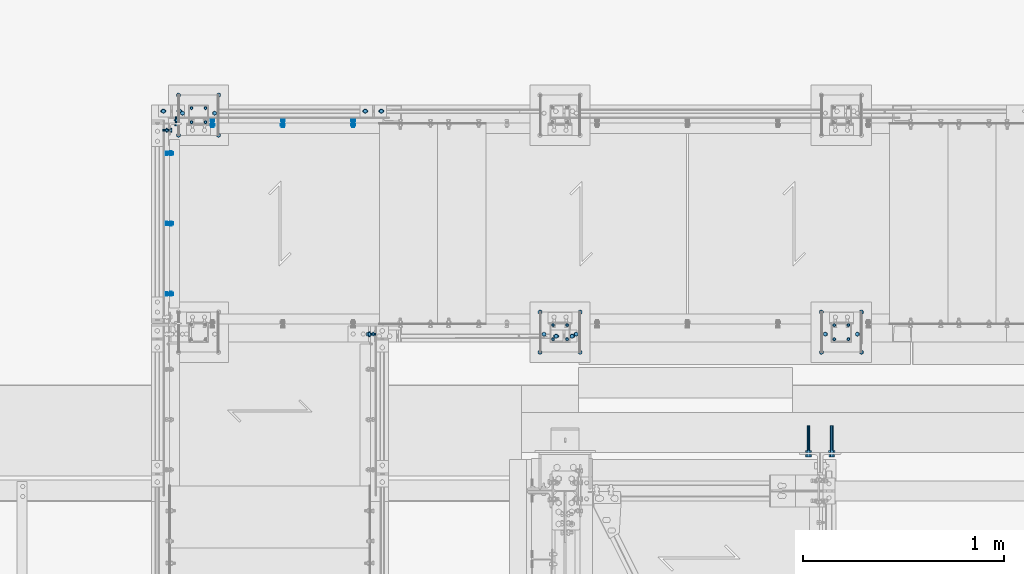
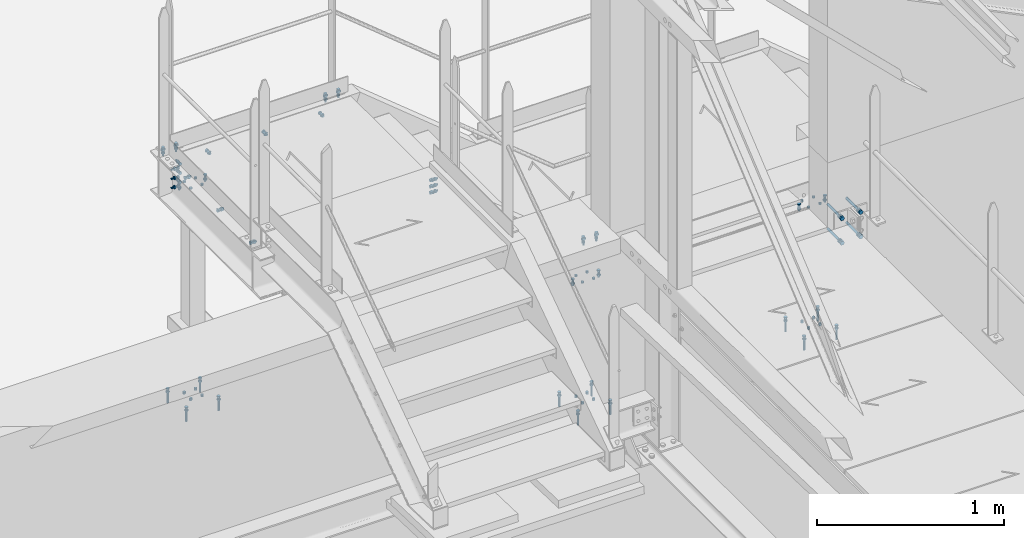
# One storey, part 199 of 362: 22 mechanical fasteners.
"""IFC2X3 building model written with IfcOpenShell, lengths in millimetres."""

from ifc_helpers import new_model, si_unit, frame, frame_2d, origin_with_axes, origin_2d_with_axis, place, context, subcontext, project, spatial, polyline, circle_curve, parameter, trimmed, segment, composite_curve, circle, outline, extrude, source, transform, mapped, material, type_object, element, save


model = new_model("IFC2X3")

# Units and contexts
model_context = context("Model", 3, precision=1e-05, world=origin_with_axes())
body_context = subcontext(model_context, "Body", "Model", "MODEL_VIEW")
ifc_project = project(units=[si_unit("LENGTHUNIT", "METRE", prefix="MILLI"), si_unit("AREAUNIT", "SQUARE_METRE"), si_unit("VOLUMEUNIT", "CUBIC_METRE"), si_unit("MASSUNIT", "GRAM", prefix="KILO"), si_unit("TIMEUNIT", "SECOND"), si_unit("PLANEANGLEUNIT", "RADIAN"), si_unit("SOLIDANGLEUNIT", "STERADIAN"), si_unit("THERMODYNAMICTEMPERATUREUNIT", "DEGREE_CELSIUS"), si_unit("LUMINOUSINTENSITYUNIT", "LUMEN")], contexts=[model_context])

# Site, building, storey
site_placement = place(None, origin_with_axes())
site = spatial("IfcSite", under=ifc_project, at=site_placement, Name="Undefined", CompositionType="ELEMENT")
building_placement = place(site_placement, origin_with_axes())
building = spatial("IfcBuilding", under=site, at=building_placement, Name="Undefined", CompositionType="ELEMENT")
storey_placement = place(building_placement, origin_with_axes())
storey = spatial("IfcBuildingStorey", under=building, at=storey_placement, Name="Undefined", CompositionType="ELEMENT", Elevation=0.0)

# Mechanical fasteners
ifc_material_1 = material(Name="6.8")
mechanical_fastener_type = type_object("IfcMechanicalFastenerType", Name="Bolt assembly")
shared_shape_1 = source(origin_with_axes(), body_context, "Body", "SweptSolid", [
    extrude(circle(Radius=7.0, at=origin_2d_with_axis()), frame((0.0, -12.0, 0.0), z_axis=(0.0, 1.0, 0.0), x_axis=(1.0, 0.0, 0.0)), (0.0, 0.0, 1.0), 12.1),
])
for number, where, z_axis, x_axis, name in (
    (1, (34255.0000000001, 16024.9999136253, 7050.0), (1.0, 0.0, 0.0), (0.0, -1.0, 0.0), "Bolt assembly"),
    (2, (35655.0000000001, 16024.9999136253, 7050.0), (1.0, 0.0, 0.0), (0.0, -1.0, 0.0), "Bolt assembly"),
):
    element("IfcMechanicalFastener", number, at=place(storey_placement, frame(where, z_axis=z_axis, x_axis=x_axis)), inside=storey, type_object=mechanical_fastener_type, material=ifc_material_1, Name=name, NominalDiameter=12.0, NominalLength=12.0, context=body_context, shape_type="MappedRepresentation", body=[
        mapped(shared_shape_1, transform((0.0, 0.0, 35.0))),
        mapped(shared_shape_1, transform((70.0, 0.0, 35.0))),
        mapped(shared_shape_1, transform((0.0, 0.0, -35.0))),
        mapped(shared_shape_1, transform((70.0, 0.0, -35.0))),
    ])
mechanical_fastener_1_placement = place(storey_placement, frame((32455.0000000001, 17034.9996684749, 7050.0), z_axis=(-1.0, 0.0, 0.0), x_axis=(0.0, 1.0, 0.0)))
element("IfcMechanicalFastener", 3, at=mechanical_fastener_1_placement, inside=storey, type_object=mechanical_fastener_type, material=ifc_material_1, Name="Bolt assembly", NominalDiameter=12.0, NominalLength=12.0, context=body_context, shape_type="MappedRepresentation", body=[
    mapped(shared_shape_1, transform((0.0, 0.0, -35.0))),
    mapped(shared_shape_1, transform((70.0, 0.0, -35.0))),
    mapped(shared_shape_1, transform((0.0, 0.0, 35.0))),
    mapped(shared_shape_1, transform((70.0, 0.0, 35.0))),
])
ifc_material_2 = material(Name="HILTI-HSA-R")
shared_shape_2 = source(origin_with_axes(), body_context, "Body", "SweptSolid", [
    extrude(circle(Radius=7.0, at=origin_2d_with_axis()), frame((0.0, -12.0, 0.0), z_axis=(0.0, 1.0, 0.0), x_axis=(1.0, 0.0, 0.0)), (0.0, 0.0, 1.0), 12.1),
    extrude(outline(polyline([(10.39230484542, 0.0), (5.19615242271, 9.00000000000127), (-5.19615242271, 9.00000000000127), (-10.39230484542, 0.0), (-5.19615242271, -9.00000000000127), (5.19615242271, -9.00000000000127), (10.39230484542, 0.0)])), frame((0.0, -19.92, 0.0), z_axis=(0.0, 1.0, 0.0), x_axis=(1.0, 0.0, 0.0)), (0.0, 0.0, 1.0), 7.92),
    extrude(circle(Radius=6.0, at=origin_2d_with_axis()), frame((0.0, -12.0, 0.0), z_axis=(0.0, 1.0, 0.0), x_axis=(1.0, 0.0, 0.0)), (0.0, 0.0, 1.0), 89.2),
    extrude(outline(polyline([(11.5008173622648, 0.0), (5.7504086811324, 9.96000000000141), (-5.7504086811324, 9.96000000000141), (-11.5008173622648, 0.0), (-5.7504086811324, -9.96000000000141), (5.7504086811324, -9.96000000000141), (11.5008173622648, 0.0)])), frame((0.0, 0.0, 0.0), z_axis=(0.0, 1.0, 0.0), x_axis=(1.0, 0.0, 0.0)), (0.0, 0.0, 1.0), 7.92),
])
for number, where, z_axis, x_axis, name in (
    (4, (34255.0000000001, 16089.9999136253, 7050.0), (1.0, 0.0, 0.0), (0.0, -1.0, 0.0), "Bolt assembly"),
    (5, (35655.0000000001, 16089.9999136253, 7050.0), (1.0, 0.0, 0.0), (0.0, -1.0, 0.0), "Bolt assembly"),
):
    element("IfcMechanicalFastener", number, at=place(storey_placement, frame(where, z_axis=z_axis, x_axis=x_axis)), inside=storey, type_object=mechanical_fastener_type, material=ifc_material_2, Name=name, NominalDiameter=12.0, NominalLength=89.1999969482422, context=body_context, shape_type="MappedRepresentation", body=[
        mapped(shared_shape_2, transform((0.0, 0.0, 100.0))),
        mapped(shared_shape_2, transform((200.0, 0.0, 100.0))),
        mapped(shared_shape_2, transform((0.0, 0.0, -100.0))),
        mapped(shared_shape_2, transform((200.0, 0.0, -100.0))),
    ])
mechanical_fastener_2_placement = place(storey_placement, frame((32455.0000000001, 16969.9996684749, 7050.0), z_axis=(-1.0, 0.0, 0.0), x_axis=(0.0, 1.0, 0.0)))
element("IfcMechanicalFastener", 6, at=mechanical_fastener_2_placement, inside=storey, type_object=mechanical_fastener_type, material=ifc_material_2, Name="Bolt assembly", NominalDiameter=12.0, NominalLength=89.1999969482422, context=body_context, shape_type="MappedRepresentation", body=[
    mapped(shared_shape_2, transform((0.0, 0.0, -100.0))),
    mapped(shared_shape_2, transform((200.0, 0.0, -100.0))),
    mapped(shared_shape_2, transform((0.0, 0.0, 100.0))),
    mapped(shared_shape_2, transform((200.0, 0.0, 100.0))),
])
ifc_material_3 = material(Name="8.8-SB-GALVA")
shared_shape_3 = source(origin_with_axes(), body_context, "Body", "SweptSolid", [
    extrude(circle(Radius=7.0, at=origin_2d_with_axis()), frame((0.0, -0.100155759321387, 0.0), z_axis=(0.0, 1.0, 0.0), x_axis=(1.0, 0.0, 0.0)), (0.0, 0.0, 1.0), 12.9),
    extrude(outline(composite_curve([segment(polyline([(-7.0, 7.0), (7.0, 7.0)]), True, "CONTINUOUS"), segment(trimmed(circle_curve(frame_2d((7.0, 0.0), x_axis=(0.0, 1.0)), 7.0), [parameter(0.0)], [parameter(3.14159265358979)], False, "PARAMETER"), True, "CONTINUOUS"), segment(polyline([(7.0, -7.0), (-7.0, -7.0)]), True, "CONTINUOUS"), segment(trimmed(circle_curve(frame_2d((-7.0, 0.0), x_axis=(0.0, -1.0)), 7.0), [parameter(0.0)], [parameter(3.14159265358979)], False, "PARAMETER"), True, "DISCONTINUOUS")], self_intersect=False)), frame((0.0, -9.9, 0.0), z_axis=(0.0, 1.0, 0.0), x_axis=(1.0, 0.0, 0.0)), (0.0, 0.0, 1.0), 10.0),
    extrude(outline(polyline([(10.39230484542, 0.0), (5.19615242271, 9.00000000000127), (-5.19615242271, 9.00000000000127), (-10.39230484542, 0.0), (-5.19615242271, -9.00000000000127), (5.19615242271, -9.00000000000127), (10.39230484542, 0.0)])), frame((0.0, -21.88, 0.0), z_axis=(0.0, 1.0, 0.0), x_axis=(1.0, 0.0, 0.0)), (0.0, 0.0, 1.0), 7.92),
    extrude(circle(Radius=6.0, at=origin_2d_with_axis()), frame((0.0, -13.96, 0.0), z_axis=(0.0, 1.0, 0.0), x_axis=(1.0, 0.0, 0.0)), (0.0, 0.0, 1.0), 50.0),
    extrude(circle(Radius=10.8, at=origin_2d_with_axis()), frame((0.0, -13.96, 0.0), z_axis=(0.0, 1.0, 0.0), x_axis=(1.0, 0.0, 0.0)), (0.0, 0.0, 1.0), 3.96),
    extrude(outline(polyline([(11.5008173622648, 0.0), (5.7504086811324, 9.96000000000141), (-5.7504086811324, 9.96000000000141), (-11.5008173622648, 0.0), (-5.7504086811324, -9.96000000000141), (5.7504086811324, -9.96000000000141), (11.5008173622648, 0.0)])), frame((0.0, 12.7998611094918, 0.0), z_axis=(0.0, 1.0, 0.0), x_axis=(1.0, 0.0, 0.0)), (0.0, 0.0, 1.0), 7.92),
])
mechanical_fastener_3_placement = place(storey_placement, frame((34235.0123796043, 15970.0000882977, 8109.9999407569), z_axis=(0.0, 1.0, 0.0), x_axis=(1.0, 0.0, 0.0)))
element("IfcMechanicalFastener", 7, at=mechanical_fastener_3_placement, inside=storey, type_object=mechanical_fastener_type, material=ifc_material_3, Name="Bolt assembly", NominalDiameter=12.0, NominalLength=50.0, context=body_context, shape_type="MappedRepresentation", body=[
    mapped(shared_shape_3, transform((0.0, 0.0, 0.0))),
    mapped(shared_shape_3, transform((80.0, 0.0, 0.0))),
])
shared_shape_4 = source(origin_with_axes(), body_context, "Body", "SweptSolid", [
    extrude(circle(Radius=7.0, at=origin_2d_with_axis()), frame((0.0, -0.100155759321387, 0.0), z_axis=(0.0, 1.0, 0.0), x_axis=(1.0, 0.0, 0.0)), (0.0, 0.0, 1.0), 12.9),
    extrude(outline(composite_curve([segment(polyline([(-7.0, 7.0), (7.0, 7.0)]), True, "CONTINUOUS"), segment(trimmed(circle_curve(frame_2d((7.0, 0.0), x_axis=(0.0, 1.0)), 7.0), [parameter(0.0)], [parameter(3.14159265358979)], False, "PARAMETER"), True, "CONTINUOUS"), segment(polyline([(7.0, -7.0), (-7.0, -7.0)]), True, "CONTINUOUS"), segment(trimmed(circle_curve(frame_2d((-7.0, 0.0), x_axis=(0.0, -1.0)), 7.0), [parameter(0.0)], [parameter(3.14159265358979)], False, "PARAMETER"), True, "DISCONTINUOUS")], self_intersect=False)), frame((0.0, -9.9, 0.0), z_axis=(0.0, 1.0, 0.0), x_axis=(1.0, 0.0, 0.0)), (0.0, 0.0, 1.0), 10.0),
    extrude(outline(polyline([(10.39230484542, 0.0), (5.19615242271, 9.00000000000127), (-5.19615242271, 9.00000000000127), (-10.39230484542, 0.0), (-5.19615242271, -9.00000000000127), (5.19615242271, -9.00000000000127), (10.39230484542, 0.0)])), frame((0.0, -21.88, 0.0), z_axis=(0.0, 1.0, 0.0), x_axis=(1.0, 0.0, 0.0)), (0.0, 0.0, 1.0), 7.92),
    extrude(circle(Radius=6.0, at=origin_2d_with_axis()), frame((0.0, -13.96, 0.0), z_axis=(0.0, 1.0, 0.0), x_axis=(1.0, 0.0, 0.0)), (0.0, 0.0, 1.0), 50.0),
    extrude(circle(Radius=10.8, at=origin_2d_with_axis()), frame((0.0, -13.96, 0.0), z_axis=(0.0, 1.0, 0.0), x_axis=(1.0, 0.0, 0.0)), (0.0, 0.0, 1.0), 3.96),
    extrude(outline(polyline([(11.5008173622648, 0.0), (5.7504086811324, 9.96000000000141), (-5.7504086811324, 9.96000000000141), (-11.5008173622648, 0.0), (-5.7504086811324, -9.96000000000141), (5.7504086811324, -9.96000000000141), (11.5008173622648, 0.0)])), frame((0.0, 12.7999834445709, 0.0), z_axis=(0.0, 1.0, 0.0), x_axis=(1.0, 0.0, 0.0)), (0.0, 0.0, 1.0), 7.92),
])
mechanical_fastener_4_placement = place(storey_placement, frame((33285.0061849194, 17089.9938659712, 8700.00000001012), z_axis=(0.0, 1.0, 0.0), x_axis=(1.0, 0.0, 0.0)))
element("IfcMechanicalFastener", 8, at=mechanical_fastener_4_placement, inside=storey, type_object=mechanical_fastener_type, material=ifc_material_3, Name="Bolt assembly", NominalDiameter=12.0, NominalLength=50.0, context=body_context, shape_type="MappedRepresentation", body=[
    mapped(shared_shape_4, transform((0.0, 0.0, 0.0))),
    mapped(shared_shape_4, transform((80.0, 0.0, 0.0))),
])
shared_shape_5 = source(origin_with_axes(), body_context, "Body", "SweptSolid", [
    extrude(circle(Radius=7.0, at=origin_2d_with_axis()), frame((0.0, -0.100011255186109, 0.0), z_axis=(0.0, 1.0, 0.0), x_axis=(1.0, 0.0, 0.0)), (0.0, 0.0, 1.0), 12.9),
    extrude(outline(composite_curve([segment(polyline([(-7.0, 7.0), (7.0, 7.0)]), True, "CONTINUOUS"), segment(trimmed(circle_curve(frame_2d((7.0, 0.0), x_axis=(0.0, 1.0)), 7.0), [parameter(0.0)], [parameter(3.14159265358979)], False, "PARAMETER"), True, "CONTINUOUS"), segment(polyline([(7.0, -7.0), (-7.0, -7.0)]), True, "CONTINUOUS"), segment(trimmed(circle_curve(frame_2d((-7.0, 0.0), x_axis=(0.0, -1.0)), 7.0), [parameter(0.0)], [parameter(3.14159265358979)], False, "PARAMETER"), True, "DISCONTINUOUS")], self_intersect=False)), frame((0.0, -9.9, 0.0), z_axis=(0.0, 1.0, 0.0), x_axis=(1.0, 0.0, 0.0)), (0.0, 0.0, 1.0), 10.0),
    extrude(outline(polyline([(10.39230484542, 0.0), (5.19615242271, 9.00000000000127), (-5.19615242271, 9.00000000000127), (-10.39230484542, 0.0), (-5.19615242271, -9.00000000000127), (5.19615242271, -9.00000000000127), (10.39230484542, 0.0)])), frame((0.0, -21.88, 0.0), z_axis=(0.0, 1.0, 0.0), x_axis=(1.0, 0.0, 0.0)), (0.0, 0.0, 1.0), 7.92),
    extrude(circle(Radius=6.0, at=origin_2d_with_axis()), frame((0.0, -13.96, 0.0), z_axis=(0.0, 1.0, 0.0), x_axis=(1.0, 0.0, 0.0)), (0.0, 0.0, 1.0), 50.0),
    extrude(circle(Radius=10.8, at=origin_2d_with_axis()), frame((0.0, -13.96, 0.0), z_axis=(0.0, 1.0, 0.0), x_axis=(1.0, 0.0, 0.0)), (0.0, 0.0, 1.0), 3.96),
    extrude(outline(polyline([(11.5008173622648, 0.0), (5.7504086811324, 9.96000000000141), (-5.7504086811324, 9.96000000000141), (-11.5008173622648, 0.0), (-5.7504086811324, -9.96000000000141), (5.7504086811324, -9.96000000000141), (11.5008173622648, 0.0)])), frame((0.0, 12.7999834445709, 0.0), z_axis=(0.0, 1.0, 0.0), x_axis=(1.0, 0.0, 0.0)), (0.0, 0.0, 1.0), 7.92),
])
mechanical_fastener_5_placement = place(storey_placement, frame((32280.0023796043, 17089.9938659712, 8700.00000001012), z_axis=(0.0, 1.0, 0.0), x_axis=(1.0, 0.0, 0.0)))
element("IfcMechanicalFastener", 9, at=mechanical_fastener_5_placement, inside=storey, type_object=mechanical_fastener_type, material=ifc_material_3, Name="Bolt assembly", NominalDiameter=12.0, NominalLength=50.0, context=body_context, shape_type="MappedRepresentation", body=[
    mapped(shared_shape_5, transform((0.0, 0.0, 0.0))),
    mapped(shared_shape_5, transform((80.0, 0.0, 0.0))),
])
shared_shape_6 = source(origin_with_axes(), body_context, "Body", "SweptSolid", [
    extrude(circle(Radius=7.0, at=origin_2d_with_axis()), frame((0.0, 0.0, 0.0), z_axis=(0.0, 1.0, 0.0), x_axis=(1.0, 0.0, 0.0)), (0.0, 0.0, 1.0), 8.1),
])
for number, where, z_axis, x_axis, name in (
    (10, (34255.0000000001, 16024.9999136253, 7850.00001160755), (1.0, 0.0, 0.0), (0.0, -1.0, 0.0), "Bolt assembly"),
    (11, (35655.0000000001, 16024.9999136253, 7850.00001160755), (1.0, 0.0, 0.0), (0.0, -1.0, 0.0), "Bolt assembly"),
):
    element("IfcMechanicalFastener", number, at=place(storey_placement, frame(where, z_axis=z_axis, x_axis=x_axis)), inside=storey, type_object=mechanical_fastener_type, material=ifc_material_1, Name=name, NominalDiameter=12.0, NominalLength=8.0, context=body_context, shape_type="MappedRepresentation", body=[
        mapped(shared_shape_6, transform((0.0, 0.0, 35.0))),
        mapped(shared_shape_6, transform((70.0, 0.0, 35.0))),
        mapped(shared_shape_6, transform((0.0, 0.0, -35.0))),
        mapped(shared_shape_6, transform((70.0, 0.0, -35.0))),
    ])
mechanical_fastener_6_placement = place(storey_placement, frame((32455.0000000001, 17034.9996684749, 8440.00011661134), z_axis=(-1.0, 0.0, 0.0), x_axis=(0.0, 1.0, 0.0)))
element("IfcMechanicalFastener", 12, at=mechanical_fastener_6_placement, inside=storey, type_object=mechanical_fastener_type, material=ifc_material_1, Name="Bolt assembly", NominalDiameter=12.0, NominalLength=8.0, context=body_context, shape_type="MappedRepresentation", body=[
    mapped(shared_shape_6, transform((0.0, 0.0, -35.0))),
    mapped(shared_shape_6, transform((70.0, 0.0, -35.0))),
    mapped(shared_shape_6, transform((0.0, 0.0, 35.0))),
    mapped(shared_shape_6, transform((70.0, 0.0, 35.0))),
])
shared_shape_7 = source(origin_with_axes(), body_context, "Body", "SweptSolid", [
    extrude(circle(Radius=7.0, at=origin_2d_with_axis()), frame((0.0, -13.4994974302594, 0.0), z_axis=(0.0, 1.0, 0.0), x_axis=(1.0, 0.0, 0.0)), (0.0, 0.0, 1.0), 13.6),
    extrude(circle(Radius=7.0, at=origin_2d_with_axis()), frame((0.0, -0.10007666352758, 0.0), z_axis=(0.0, 1.0, 0.0), x_axis=(1.0, 0.0, 0.0)), (0.0, 0.0, 1.0), 8.1),
    extrude(outline(polyline([(10.39230484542, 0.0), (5.19615242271, 9.00000000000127), (-5.19615242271, 9.00000000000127), (-10.39230484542, 0.0), (-5.19615242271, -9.00000000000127), (5.19615242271, -9.00000000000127), (10.39230484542, 0.0)])), frame((0.0, -21.5194974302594, 0.0), z_axis=(0.0, 1.0, 0.0), x_axis=(1.0, 0.0, 0.0)), (0.0, 0.0, 1.0), 7.92),
    extrude(circle(Radius=6.0, at=origin_2d_with_axis()), frame((0.0, -13.5994974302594, 0.0), z_axis=(0.0, 1.0, 0.0), x_axis=(1.0, 0.0, 0.0)), (0.0, 0.0, 1.0), 40.0),
    extrude(outline(polyline([(11.5008173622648, 0.0), (5.7504086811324, 9.96000000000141), (-5.7504086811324, 9.96000000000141), (-11.5008173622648, 0.0), (-5.7504086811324, -9.96000000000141), (5.7504086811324, -9.96000000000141), (11.5008173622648, 0.0)])), frame((0.0, 7.99992914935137, 0.0), z_axis=(0.0, 1.0, 0.0), x_axis=(1.0, 0.0, 0.0)), (0.0, 0.0, 1.0), 7.92),
])
mechanical_fastener_7_placement = place(storey_placement, frame((32455.0000000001, 17079.9996684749, 8440.00004576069), z_axis=(1.0, 0.0, 0.0), x_axis=(0.0, -1.0, 0.0)))
element("IfcMechanicalFastener", 13, at=mechanical_fastener_7_placement, inside=storey, type_object=mechanical_fastener_type, material=ifc_material_3, Name="Bolt assembly", NominalDiameter=12.0, NominalLength=40.0, context=body_context, shape_type="MappedRepresentation", body=[
    mapped(shared_shape_7, transform((0.0, 0.0, -80.0))),
    mapped(shared_shape_7, transform((0.0, 0.0, 80.0))),
])
shared_shape_8 = source(origin_with_axes(), body_context, "Body", "SweptSolid", [
    extrude(circle(Radius=7.0, at=origin_2d_with_axis()), frame((0.0, -13.5001910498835, 0.0), z_axis=(0.0, 1.0, 0.0), x_axis=(1.0, 0.0, 0.0)), (0.0, 0.0, 1.0), 13.6),
    extrude(circle(Radius=7.0, at=origin_2d_with_axis()), frame((0.0, -0.10007666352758, 0.0), z_axis=(0.0, 1.0, 0.0), x_axis=(1.0, 0.0, 0.0)), (0.0, 0.0, 1.0), 8.1),
    extrude(outline(polyline([(10.39230484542, 0.0), (5.19615242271, 9.00000000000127), (-5.19615242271, 9.00000000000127), (-10.39230484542, 0.0), (-5.19615242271, -9.00000000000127), (5.19615242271, -9.00000000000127), (10.39230484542, 0.0)])), frame((0.0, -21.5201910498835, 0.0), z_axis=(0.0, 1.0, 0.0), x_axis=(1.0, 0.0, 0.0)), (0.0, 0.0, 1.0), 7.92),
    extrude(circle(Radius=6.0, at=origin_2d_with_axis()), frame((0.0, -13.6001910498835, 0.0), z_axis=(0.0, 1.0, 0.0), x_axis=(1.0, 0.0, 0.0)), (0.0, 0.0, 1.0), 40.0),
    extrude(outline(polyline([(11.5008173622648, 0.0), (5.7504086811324, 9.96000000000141), (-5.7504086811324, 9.96000000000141), (-11.5008173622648, 0.0), (-5.7504086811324, -9.96000000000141), (5.7504086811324, -9.96000000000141), (11.5008173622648, 0.0)])), frame((0.0, 7.99992914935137, 0.0), z_axis=(0.0, 1.0, 0.0), x_axis=(1.0, 0.0, 0.0)), (0.0, 0.0, 1.0), 7.92),
])
mechanical_fastener_8_placement = place(storey_placement, frame((34255.0000000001, 15979.9999136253, 7849.9999407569), z_axis=(-1.0, 0.0, 0.0), x_axis=(0.0, 1.0, 0.0)))
element("IfcMechanicalFastener", 14, at=mechanical_fastener_8_placement, inside=storey, type_object=mechanical_fastener_type, material=ifc_material_3, Name="Bolt assembly", NominalDiameter=12.0, NominalLength=40.0, context=body_context, shape_type="MappedRepresentation", body=[
    mapped(shared_shape_8, transform((0.0, 0.0, 80.0))),
    mapped(shared_shape_8, transform((0.0, 0.0, -80.0))),
])
shared_shape_9 = source(origin_with_axes(), body_context, "Body", "SweptSolid", [
    extrude(circle(Radius=7.0, at=origin_2d_with_axis()), frame((0.0, -13.5000574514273, 0.0), z_axis=(0.0, 1.0, 0.0), x_axis=(1.0, 0.0, 0.0)), (0.0, 0.0, 1.0), 13.6),
    extrude(circle(Radius=7.0, at=origin_2d_with_axis()), frame((0.0, -0.10007666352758, 0.0), z_axis=(0.0, 1.0, 0.0), x_axis=(1.0, 0.0, 0.0)), (0.0, 0.0, 1.0), 8.1),
    extrude(outline(polyline([(10.39230484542, 0.0), (5.19615242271, 9.00000000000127), (-5.19615242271, 9.00000000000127), (-10.39230484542, 0.0), (-5.19615242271, -9.00000000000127), (5.19615242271, -9.00000000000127), (10.39230484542, 0.0)])), frame((0.0, -21.5200574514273, 0.0), z_axis=(0.0, 1.0, 0.0), x_axis=(1.0, 0.0, 0.0)), (0.0, 0.0, 1.0), 7.92),
    extrude(circle(Radius=6.0, at=origin_2d_with_axis()), frame((0.0, -13.6000574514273, 0.0), z_axis=(0.0, 1.0, 0.0), x_axis=(1.0, 0.0, 0.0)), (0.0, 0.0, 1.0), 40.0),
    extrude(outline(polyline([(11.5008173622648, 0.0), (5.7504086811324, 9.96000000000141), (-5.7504086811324, 9.96000000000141), (-11.5008173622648, 0.0), (-5.7504086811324, -9.96000000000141), (5.7504086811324, -9.96000000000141), (11.5008173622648, 0.0)])), frame((0.0, 7.99992914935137, 0.0), z_axis=(0.0, 1.0, 0.0), x_axis=(1.0, 0.0, 0.0)), (0.0, 0.0, 1.0), 7.92),
])
mechanical_fastener_9_placement = place(storey_placement, frame((35655.0000000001, 15979.9999136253, 7849.9999407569), z_axis=(-1.0, 0.0, 0.0), x_axis=(0.0, 1.0, 0.0)))
element("IfcMechanicalFastener", 15, at=mechanical_fastener_9_placement, inside=storey, type_object=mechanical_fastener_type, material=ifc_material_3, Name="Bolt assembly", NominalDiameter=12.0, NominalLength=40.0, context=body_context, shape_type="MappedRepresentation", body=[
    mapped(shared_shape_9, transform((0.0, 0.0, 80.0))),
    mapped(shared_shape_9, transform((0.0, 0.0, -80.0))),
])
shared_shape_10 = source(origin_with_axes(), body_context, "Body", "SweptSolid", [
    extrude(circle(Radius=7.0, at=origin_2d_with_axis()), frame((0.0, -9.90063770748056, 0.0), z_axis=(0.0, 1.0, 0.0), x_axis=(1.0, 0.0, 0.0)), (0.0, 0.0, 1.0), 10.0),
    extrude(circle(Radius=7.0, at=origin_2d_with_axis()), frame((0.0, -0.100011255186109, 0.0), z_axis=(0.0, 1.0, 0.0), x_axis=(1.0, 0.0, 0.0)), (0.0, 0.0, 1.0), 5.1),
    extrude(outline(polyline([(10.39230484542, 0.0), (5.19615242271, 9.00000000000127), (-5.19615242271, 9.00000000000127), (-10.39230484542, 0.0), (-5.19615242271, -9.00000000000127), (5.19615242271, -9.00000000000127), (10.39230484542, 0.0)])), frame((0.0, -17.9206377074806, 0.0), z_axis=(0.0, 1.0, 0.0), x_axis=(1.0, 0.0, 0.0)), (0.0, 0.0, 1.0), 7.92),
    extrude(circle(Radius=6.0, at=origin_2d_with_axis()), frame((0.0, -10.0006377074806, 0.0), z_axis=(0.0, 1.0, 0.0), x_axis=(1.0, 0.0, 0.0)), (0.0, 0.0, 1.0), 30.0),
    extrude(outline(polyline([(11.5008173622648, 0.0), (5.7504086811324, 9.96000000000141), (-5.7504086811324, 9.96000000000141), (-11.5008173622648, 0.0), (-5.7504086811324, -9.96000000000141), (5.7504086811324, -9.96000000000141), (11.5008173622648, 0.0)])), frame((0.0, 5.0, 0.0), z_axis=(0.0, 1.0, 0.0), x_axis=(1.0, 0.0, 0.0)), (0.0, 0.0, 1.0), 7.92),
])
mechanical_fastener_10_placement = place(storey_placement, frame((32875.0003754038, 17029.9933718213, 8640.0), z_axis=(1.0, 0.0, 0.0), x_axis=(0.0, 0.0, 1.0)))
element("IfcMechanicalFastener", 16, at=mechanical_fastener_10_placement, inside=storey, type_object=mechanical_fastener_type, material=ifc_material_3, Name="Bolt assembly", NominalDiameter=12.0, NominalLength=30.0, context=body_context, shape_type="MappedRepresentation", body=[
    mapped(shared_shape_10, transform((0.0, 0.0, -350.0))),
    mapped(shared_shape_10, transform((0.0, 0.0, 0.0))),
    mapped(shared_shape_10, transform((0.0, 0.0, 350.0))),
])
shared_shape_11 = source(origin_with_axes(), body_context, "Body", "SweptSolid", [
    extrude(circle(Radius=7.0, at=origin_2d_with_axis()), frame((0.0, -0.0962673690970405, 0.0), z_axis=(0.0, 1.0, 0.0), x_axis=(1.0, 0.0, 0.0)), (0.0, 0.0, 1.0), 10.1),
    extrude(outline(composite_curve([segment(polyline([(7.0, 7.0), (7.0, -7.0)]), True, "CONTINUOUS"), segment(trimmed(circle_curve(frame_2d((0.0, -7.0), x_axis=(1.0, 0.0)), 7.0), [parameter(0.0)], [parameter(3.14159265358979)], False, "PARAMETER"), True, "CONTINUOUS"), segment(polyline([(-7.0, -7.0), (-7.0, 7.0)]), True, "CONTINUOUS"), segment(trimmed(circle_curve(frame_2d((0.0, 7.0), x_axis=(-1.0, 0.0)), 7.0), [parameter(0.0)], [parameter(3.14159265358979)], False, "PARAMETER"), True, "DISCONTINUOUS")], self_intersect=False)), frame((0.0, -7.9, 0.0), z_axis=(0.0, 1.0, 0.0), x_axis=(1.0, 0.0, 0.0)), (0.0, 0.0, 1.0), 8.0),
    extrude(outline(polyline([(10.39230484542, 0.0), (5.19615242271, 9.00000000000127), (-5.19615242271, 9.00000000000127), (-10.39230484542, 0.0), (-5.19615242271, -9.00000000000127), (5.19615242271, -9.00000000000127), (10.39230484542, 0.0)])), frame((0.0, -19.88, 0.0), z_axis=(0.0, 1.0, 0.0), x_axis=(1.0, 0.0, 0.0)), (0.0, 0.0, 1.0), 7.92),
    extrude(circle(Radius=6.0, at=origin_2d_with_axis()), frame((0.0, -11.96, 0.0), z_axis=(0.0, 1.0, 0.0), x_axis=(1.0, 0.0, 0.0)), (0.0, 0.0, 1.0), 40.0),
    extrude(circle(Radius=10.8, at=origin_2d_with_axis()), frame((0.0, -11.96, 0.0), z_axis=(0.0, 1.0, 0.0), x_axis=(1.0, 0.0, 0.0)), (0.0, 0.0, 1.0), 3.96),
    extrude(outline(polyline([(11.5008173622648, 0.0), (5.7504086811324, 9.96000000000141), (-5.7504086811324, 9.96000000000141), (-11.5008173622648, 0.0), (-5.7504086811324, -9.96000000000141), (5.7504086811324, -9.96000000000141), (11.5008173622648, 0.0)])), frame((0.0, 10.0037326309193, 0.0), z_axis=(0.0, 1.0, 0.0), x_axis=(1.0, 0.0, 0.0)), (0.0, 0.0, 1.0), 7.92),
])
mechanical_fastener_11_placement = place(storey_placement, frame((33310.0018452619, 15980.0058471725, 8820.0), z_axis=(0.0, -1.0, 0.0), x_axis=(0.0, 0.0, -1.0)))
element("IfcMechanicalFastener", 17, at=mechanical_fastener_11_placement, inside=storey, type_object=mechanical_fastener_type, material=ifc_material_3, Name="Bolt assembly", NominalDiameter=12.0, NominalLength=40.0, context=body_context, shape_type="MappedRepresentation", body=[
    mapped(shared_shape_11, transform((0.0, 0.0, 0.0))),
    mapped(shared_shape_11, transform((40.0, 0.0, 0.0))),
    mapped(shared_shape_11, transform((80.0, 0.0, 0.0))),
])
shared_shape_12 = source(origin_with_axes(), body_context, "Body", "SweptSolid", [
    extrude(circle(Radius=7.0, at=origin_2d_with_axis()), frame((0.0, -14.8947102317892, 0.0), z_axis=(0.0, 1.0, 0.0), x_axis=(1.0, 0.0, 0.0)), (0.0, 0.0, 1.0), 10.0),
    extrude(circle(Radius=7.0, at=origin_2d_with_axis()), frame((0.0, -5.09380520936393, 0.0), z_axis=(0.0, 1.0, 0.0), x_axis=(1.0, 0.0, 0.0)), (0.0, 0.0, 1.0), 5.1),
    extrude(outline(polyline([(10.39230484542, 0.0), (5.19615242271, 9.00000000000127), (-5.19615242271, 9.00000000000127), (-10.39230484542, 0.0), (-5.19615242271, -9.00000000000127), (5.19615242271, -9.00000000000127), (10.39230484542, 0.0)])), frame((0.0, -22.9147102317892, 0.0), z_axis=(0.0, 1.0, 0.0), x_axis=(1.0, 0.0, 0.0)), (0.0, 0.0, 1.0), 7.92),
    extrude(circle(Radius=6.0, at=origin_2d_with_axis()), frame((0.0, -14.9947102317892, 0.0), z_axis=(0.0, 1.0, 0.0), x_axis=(1.0, 0.0, 0.0)), (0.0, 0.0, 1.0), 30.0),
    extrude(outline(polyline([(11.5008173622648, 0.0), (5.7504086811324, 9.96000000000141), (-5.7504086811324, 9.96000000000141), (-11.5008173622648, 0.0), (-5.7504086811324, -9.96000000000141), (5.7504086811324, -9.96000000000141), (11.5008173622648, 0.0)])), frame((0.0, 0.00619479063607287, 0.0), z_axis=(0.0, 1.0, 0.0), x_axis=(1.0, 0.0, 0.0)), (0.0, 0.0, 1.0), 7.92),
])
mechanical_fastener_12_placement = place(storey_placement, frame((32314.9999903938, 16529.9933715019, 8640.0), z_axis=(0.0, 1.0, 0.0), x_axis=(0.0, 0.0, 1.0)))
element("IfcMechanicalFastener", 18, at=mechanical_fastener_12_placement, inside=storey, type_object=mechanical_fastener_type, material=ifc_material_3, Name="Bolt assembly", NominalDiameter=12.0, NominalLength=30.0, context=body_context, shape_type="MappedRepresentation", body=[
    mapped(shared_shape_12, transform((0.0, 0.0, -350.0))),
    mapped(shared_shape_12, transform((0.0, 0.0, 0.0))),
    mapped(shared_shape_12, transform((0.0, 0.0, 350.0))),
])
shared_shape_13 = source(origin_with_axes(), body_context, "Body", "SweptSolid", [
    extrude(circle(Radius=7.0, at=origin_2d_with_axis()), frame((0.0, -0.0940093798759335, 0.0), z_axis=(0.0, 1.0, 0.0), x_axis=(1.0, 0.0, 0.0)), (0.0, 0.0, 1.0), 10.1),
    extrude(circle(Radius=7.0, at=origin_2d_with_axis()), frame((0.0, -5.8999542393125, 0.0), z_axis=(0.0, 1.0, 0.0), x_axis=(1.0, 0.0, 0.0)), (0.0, 0.0, 1.0), 6.0),
    extrude(outline(polyline([(10.39230484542, 0.0), (5.19615242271, 9.00000000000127), (-5.19615242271, 9.00000000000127), (-10.39230484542, 0.0), (-5.19615242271, -9.00000000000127), (5.19615242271, -9.00000000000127), (10.39230484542, 0.0)])), frame((0.0, -13.9199542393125, 0.0), z_axis=(0.0, 1.0, 0.0), x_axis=(1.0, 0.0, 0.0)), (0.0, 0.0, 1.0), 7.92),
    extrude(circle(Radius=6.0, at=origin_2d_with_axis()), frame((0.0, -5.9999542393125, 0.0), z_axis=(0.0, 1.0, 0.0), x_axis=(1.0, 0.0, 0.0)), (0.0, 0.0, 1.0), 40.0),
    extrude(outline(polyline([(11.5008173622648, 0.0), (5.7504086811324, 9.96000000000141), (-5.7504086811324, 9.96000000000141), (-11.5008173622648, 0.0), (-5.7504086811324, -9.96000000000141), (5.7504086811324, -9.96000000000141), (11.5008173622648, 0.0)])), frame((0.0, 10.0059906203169, 0.0), z_axis=(0.0, 1.0, 0.0), x_axis=(1.0, 0.0, 0.0)), (0.0, 0.0, 1.0), 7.92),
])
mechanical_fastener_13_placement = place(storey_placement, frame((32310.0061851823, 16994.9933718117, 8570.0), z_axis=(0.0, 0.0, 1.0), x_axis=(0.0, 1.0, 0.0)))
element("IfcMechanicalFastener", 19, at=mechanical_fastener_13_placement, inside=storey, type_object=mechanical_fastener_type, material=ifc_material_3, Name="Bolt assembly", NominalDiameter=12.0, NominalLength=40.0, context=body_context, shape_type="MappedRepresentation", body=[
    mapped(shared_shape_13, transform((0.0, 0.0, -60.0))),
    mapped(shared_shape_13, transform((0.0, 0.0, 0.0))),
    mapped(shared_shape_13, transform((0.0, 0.0, 60.0))),
])
shared_shape_14 = source(origin_with_axes(), body_context, "Body", "SweptSolid", [
    extrude(circle(Radius=7.0, at=origin_2d_with_axis()), frame((0.0, -0.0997388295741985, 0.0), z_axis=(0.0, 1.0, 0.0), x_axis=(1.0, 0.0, 0.0)), (0.0, 0.0, 1.0), 10.1),
    extrude(circle(Radius=7.0, at=origin_2d_with_axis()), frame((0.0, -5.8999542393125, 0.0), z_axis=(0.0, 1.0, 0.0), x_axis=(1.0, 0.0, 0.0)), (0.0, 0.0, 1.0), 6.0),
    extrude(outline(polyline([(10.39230484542, 0.0), (5.19615242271, 9.00000000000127), (-5.19615242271, 9.00000000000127), (-10.39230484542, 0.0), (-5.19615242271, -9.00000000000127), (5.19615242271, -9.00000000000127), (10.39230484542, 0.0)])), frame((0.0, -13.9199542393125, 0.0), z_axis=(0.0, 1.0, 0.0), x_axis=(1.0, 0.0, 0.0)), (0.0, 0.0, 1.0), 7.92),
    extrude(circle(Radius=6.0, at=origin_2d_with_axis()), frame((0.0, -5.9999542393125, 0.0), z_axis=(0.0, 1.0, 0.0), x_axis=(1.0, 0.0, 0.0)), (0.0, 0.0, 1.0), 40.0),
    extrude(outline(polyline([(11.5008173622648, 0.0), (5.7504086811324, 9.96000000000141), (-5.7504086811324, 9.96000000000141), (-11.5008173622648, 0.0), (-5.7504086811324, -9.96000000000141), (5.7504086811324, -9.96000000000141), (11.5008173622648, 0.0)])), frame((0.0, 10.0002611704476, 0.0), z_axis=(0.0, 1.0, 0.0), x_axis=(1.0, 0.0, 0.0)), (0.0, 0.0, 1.0), 7.92),
])
mechanical_fastener_14_placement = place(storey_placement, frame((32345.0061851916, 17029.9933718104, 8570.0), z_axis=(0.0, 0.0, -1.0), x_axis=(-1.0, 0.0, 0.0)))
element("IfcMechanicalFastener", 20, at=mechanical_fastener_14_placement, inside=storey, type_object=mechanical_fastener_type, material=ifc_material_3, Name="Bolt assembly", NominalDiameter=12.0, NominalLength=40.0, context=body_context, shape_type="MappedRepresentation", body=[
    mapped(shared_shape_14, transform((0.0, 0.0, -60.0))),
    mapped(shared_shape_14, transform((0.0, 0.0, 0.0))),
    mapped(shared_shape_14, transform((0.0, 0.0, 60.0))),
])
ifc_material_4 = material(Name="HILTI-HST-R")
shared_shape_15 = source(origin_with_axes(), body_context, "Body", "SweptSolid", [
    extrude(circle(Radius=9.0, at=origin_2d_with_axis()), frame((0.0, -9.99987141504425, 0.0), z_axis=(0.0, 1.0, 0.0), x_axis=(1.0, 0.0, 0.0)), (0.0, 0.0, 1.0), 10.1),
    extrude(outline(polyline([(13.85640646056, 0.0), (6.92820323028, 12.0000000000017), (-6.92820323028, 12.0000000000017), (-13.85640646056, 0.0), (-6.92820323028, -12.0000000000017), (6.92820323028, -12.0000000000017), (13.85640646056, 0.0)])), frame((0.0, -20.559881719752, 0.0), z_axis=(0.0, 1.0, 0.0), x_axis=(1.0, 0.0, 0.0)), (0.0, 0.0, 1.0), 10.56),
    extrude(circle(Radius=8.0, at=origin_2d_with_axis()), frame((0.0, -9.99987141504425, 0.0), z_axis=(0.0, 1.0, 0.0), x_axis=(1.0, 0.0, 0.0)), (0.0, 0.0, 1.0), 146.2),
    extrude(outline(polyline([(15.3344231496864, 0.0), (7.6672115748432, 13.2800000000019), (-7.6672115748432, 13.2800000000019), (-15.3344231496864, 0.0), (-7.6672115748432, -13.2800000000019), (7.6672115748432, -13.2800000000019), (15.3344231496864, 0.0)])), frame((0.0, 0.000125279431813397, 0.0), z_axis=(0.0, 1.0, 0.0), x_axis=(1.0, 0.0, 0.0)), (0.0, 0.0, 1.0), 10.56),
])
for number, where, z_axis, x_axis, name in (
    (21, (35491.4917140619, 15389.9998771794, 8090.00437165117), (0.0, 0.0, 1.0), (1.0, 0.0, 0.0), "Bolt assembly"),
    (22, (35607.4917140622, 15389.999877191, 8090.00437165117), (0.0, 0.0, -1.0), (-1.0, 0.0, 0.0), "Bolt assembly"),
):
    element("IfcMechanicalFastener", number, at=place(storey_placement, frame(where, z_axis=z_axis, x_axis=x_axis)), inside=storey, type_object=mechanical_fastener_type, material=ifc_material_4, Name=name, NominalDiameter=16.0, NominalLength=146.199996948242, context=body_context, shape_type="MappedRepresentation", body=[
        mapped(shared_shape_15, transform((0.0, 0.0, -80.0))),
        mapped(shared_shape_15, transform((0.0, 0.0, 80.0))),
    ])

save(model, "model.ifc")
